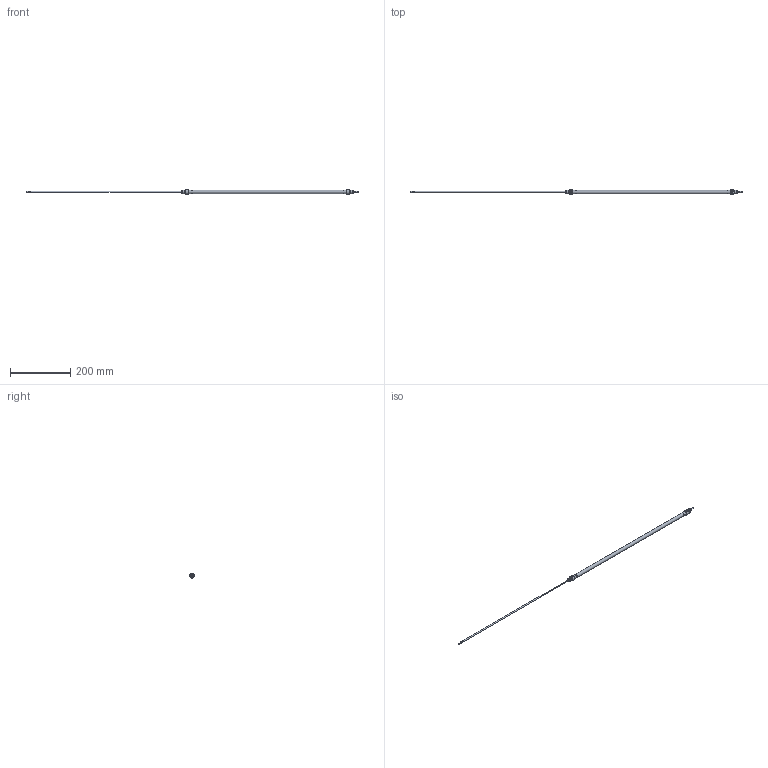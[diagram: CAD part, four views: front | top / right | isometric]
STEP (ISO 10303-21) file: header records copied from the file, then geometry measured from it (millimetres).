
FILE_DESCRIPTION( ( 'STEP AP203' ), '1' );
FILE_NAME( '//expscmdclustefs.cadenas.external/client_exchange/iodir/jobs/output/wkb68273551_no0/STEP/M101-010-0500--__0__2_03.stp', ' ', ( ' ' ), ( ' ' ), 'PSStep 15.0.47', 'PARTsolutions', ' ' );
FILE_SCHEMA( ( 'CONFIG_CONTROL_DESIGN' ) );
Length unit declared in the file: millimetre
Products named in the file (3): M101-010-0500-- [0]; HI_M101-010-0500---[0]-z; HI_M101-010-0500---[0]-k
Assembly tree (2 placements, depth 2):
  M101-010-0500-- [0]
    HI_M101-010-0500---[0]-z
    HI_M101-010-0500---[0]-k
Bounding box: 1102 x 15.77 x 14.87 mm (x, y, z)
Volume: 32648.9 mm3; surface area: 52060.5 mm2
Topology: 2 solids, 2 shells, 71 faces, 145 edges, 88 vertices
Faces by surface type: plane 32, cylinder 23, cone 14, torus 2
Full cylindrical faces by diameter (mm): 3.141 x2, 4 x6, 4.134 x2, 10 x2, 10.466 x4, 11.3 x1, 12 x4
Entity records: 1838 total; most frequent: CARTESIAN_POINT 358, DIRECTION 312, ORIENTED_EDGE 212, AXIS2_PLACEMENT_3D 140, EDGE_LOOP 120, EDGE_CURVE 106, FACE_OUTER_BOUND 94, VERTEX_POINT 82
